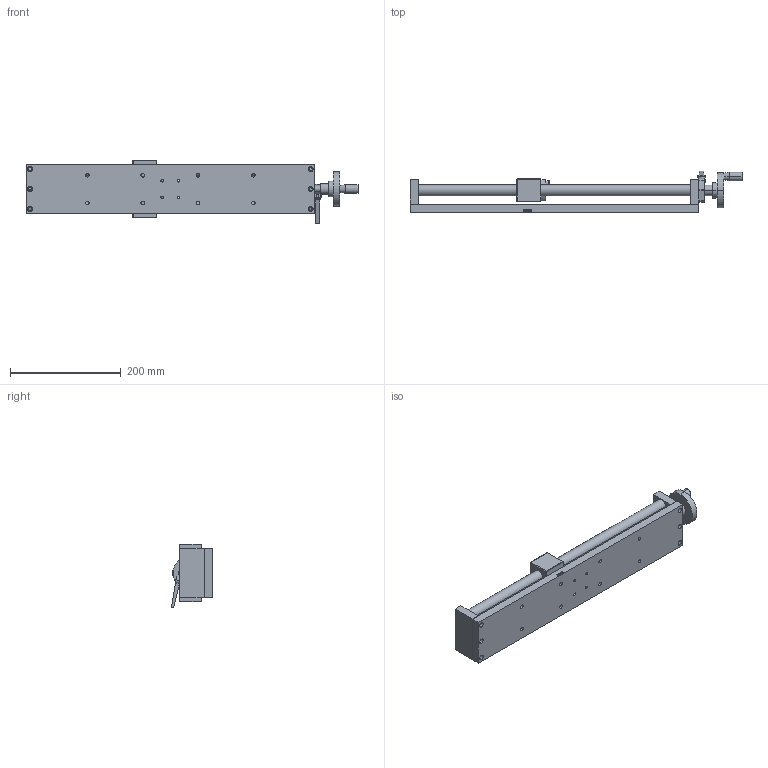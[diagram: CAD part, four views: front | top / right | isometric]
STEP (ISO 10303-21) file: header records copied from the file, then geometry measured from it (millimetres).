
FILE_DESCRIPTION (( 'STEP AP214' ), '1' );
FILE_NAME ('PT-LX-400.STEP', '2022-08-27T00:56:19', ( '' ), ( '' ), 'SwSTEP 2.0', 'SolidWorks 2017', '' );
FILE_SCHEMA (( 'AUTOMOTIVE_DESIGN' ));
Length unit declared in the file: millimetre
Products named in the file (1): PT-LX-400
Bounding box: 600 x 74.34 x 114.6 mm (x, y, z)
Surface area: 263422.5 mm2 (no closed solid volume)
Topology: 0 solids, 24 shells, 411 faces, 1191 edges, 803 vertices
Faces by surface type: plane 176, cylinder 139, bspline 80, sphere 8, cone 8
Entity records: 19480 total; most frequent: CARTESIAN_POINT 6373, ORIENTED_EDGE 2126, DIRECTION 2040, EDGE_CURVE 1179, VERTEX_POINT 803, AXIS2_PLACEMENT_3D 698, VECTOR 644, LINE 644
